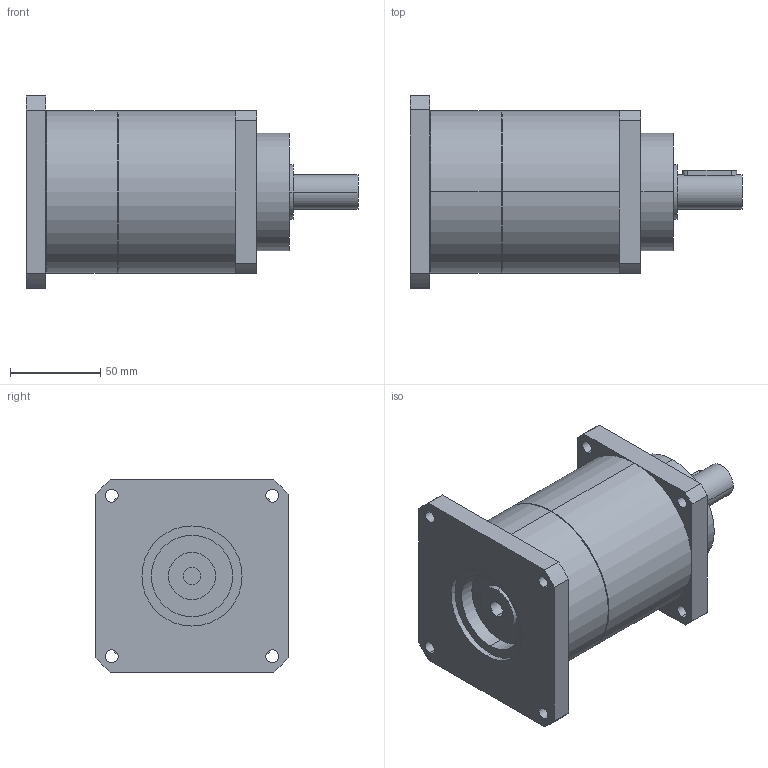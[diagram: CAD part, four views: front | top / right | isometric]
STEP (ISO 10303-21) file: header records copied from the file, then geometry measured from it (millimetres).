
FILE_DESCRIPTION(('CoCreate Modeling STEP Export'),'2;1');
FILE_NAME('GPT90_ig-9-12-16-20-25-28-35-40-50-70-100_19_B5T_9.525_P02.stp','2015-02-04T11:34:52',(''),(''),'CoCreate Modeling STEP processor for AP214 (Solid Model)','CoCreate Modeling 16.00C 25-Feb-2009 (C) Parametric Technology GmbH','');
FILE_SCHEMA(('AUTOMOTIVE_DESIGN { 1 0 10303 214 1 1 1 1 }'));
Length unit declared in the file: millimetre
Products named in the file (2): GPT90_ig-9-12-16-20-25-28-35-40-50-70-100_19_B5T_9.525_P02
Assembly tree (1 placements, depth 2):
  GPT90_ig-9-12-16-20-25-28-35-40-50-70-100_19_B5T_9.525_P02
    GPT90_ig-9-12-16-20-25-28-35-40-50-70-100_19_B5T_9.525_P02
Bounding box: 184 x 106.5 x 106.5 mm (x, y, z)
Volume: 934880.6 mm3; surface area: 75422.3 mm2
Topology: 1 solids, 1 shells, 77 faces, 206 edges, 141 vertices
Faces by surface type: cylinder 46, plane 27, cone 4
Entity records: 2596 total; most frequent: CARTESIAN_POINT 742, ORIENTED_EDGE 412, DIRECTION 324, EDGE_CURVE 206, VERTEX_POINT 141, AXIS2_PLACEMENT_3D 120, EDGE_LOOP 103, VECTOR 84
